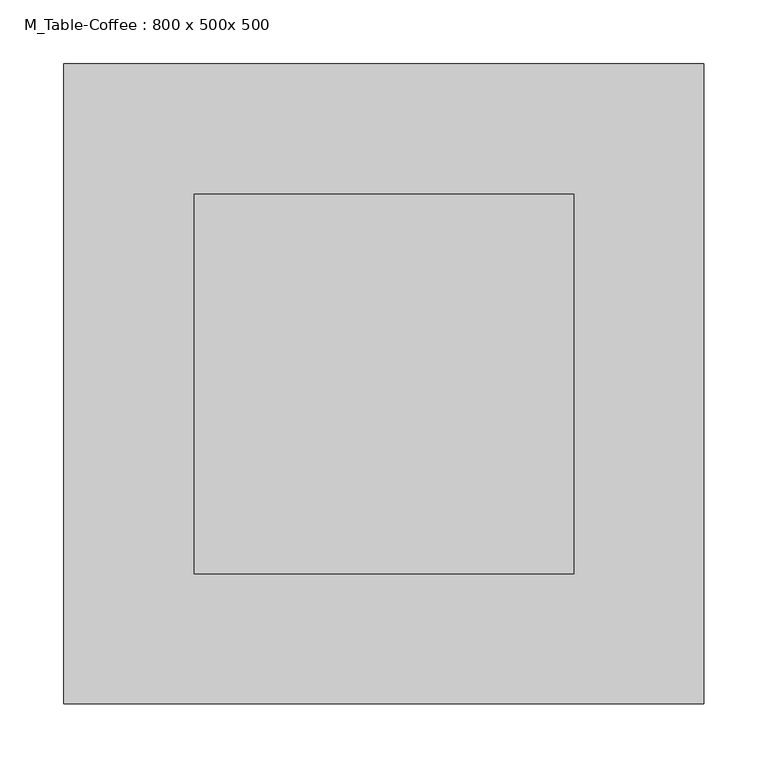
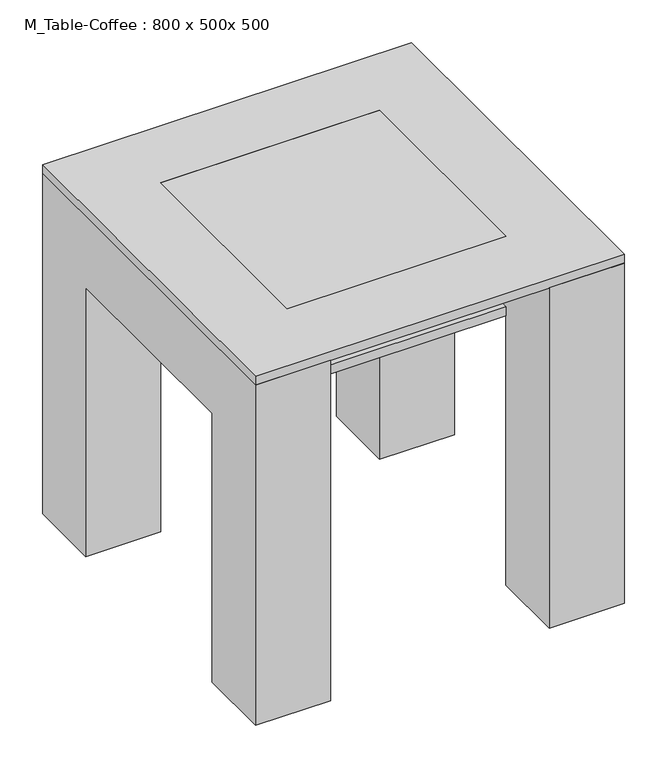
"""IFC4 building model written with IfcOpenShell, lengths in millimetres: furniture geometry, M_Table-Coffee : 800 x 500x 500."""

from ifc_helpers import new_model, si_unit, frame, origin, place, context, project, spatial, polyline, outline, extrude, source, transform, mapped, element, save


def m_table_coffee_800_x_500x_500_ae3acebe(model_context):
    return source(origin(), model_context, "Body", "SweptSolid", [
        extrude(outline(polyline([(166.6657667, 243.6110778), (166.6657667, -53.1889222), (-130.1342333, -53.1889222), (-130.1342333, 243.6110778), (166.6657667, 243.6110778)])), frame((0.0, 0.0, 385.7), z_axis=(0.0, 0.0, 1.0), x_axis=(1.0, 0.0, 0.0)), (0.0, 0.0, 1.0), 12.7),
        extrude(outline(polyline([(345.2110778, 0.0), (243.6110778, 0.0), (243.6110778, 385.7), (-53.1889222, 385.7), (-53.1889222, 0.0), (-154.7889222, 0.0), (-154.7889222, 487.3), (345.2110778, 487.3), (345.2110778, 0.0)])), frame((166.6657667, 0.0, 0.0), z_axis=(1.0, 0.0, 0.0), x_axis=(0.0, 1.0, 0.0)), (0.0, 0.0, 1.0), 101.6),
        extrude(outline(polyline([(345.2110778, 487.3), (345.2110778, 0.0), (243.6110778, 0.0), (243.6110778, 385.7), (-53.1889222, 385.7), (-53.1889222, 0.0), (-154.7889222, 0.0), (-154.7889222, 487.3), (345.2110778, 487.3)])), frame((-231.7342333, 0.0, 0.0), z_axis=(1.0, 0.0, 0.0), x_axis=(0.0, 1.0, 0.0)), (0.0, 0.0, 1.0), 101.6),
        extrude(outline(polyline([(166.6657667, 243.6110778), (166.6657667, -53.1889222), (-130.1342333, -53.1889222), (-130.1342333, 243.6110778), (166.6657667, 243.6110778)])), frame((0.0, 0.0, 487.3), z_axis=(0.0, 0.0, 1.0), x_axis=(1.0, 0.0, 0.0)), (0.0, 0.0, 1.0), 12.7),
        extrude(outline(polyline([(268.2657667, 345.2110778), (268.2657667, -154.7889222), (-231.7342333, -154.7889222), (-231.7342333, 345.2110778), (268.2657667, 345.2110778)]), holes=[polyline([(166.6657667, 243.6110778), (-130.1342333, 243.6110778), (-130.1342333, -53.1889222), (166.6657667, -53.1889222), (166.6657667, 243.6110778)])]), frame((0.0, 0.0, 487.3), z_axis=(0.0, 0.0, 1.0), x_axis=(1.0, 0.0, 0.0)), (0.0, 0.0, 1.0), 12.7),
    ])


if __name__ == "__main__":
    model = new_model("IFC4")
    model_context = context("Model", 3, world=origin())
    ifc_project = project(units=[si_unit("LENGTHUNIT", "METRE", prefix="MILLI")], contexts=[model_context])
    site = spatial("IfcSite", under=ifc_project)
    building = spatial("IfcBuilding", under=site)
    placement = place(None, origin())
    m_table_coffee_800_x_500x_500_shape = m_table_coffee_800_x_500x_500_ae3acebe(model_context)
    element("IfcFurniture", 1, ObjectType="M_Table-Coffee : 800 x 500x 500", at=placement, inside=building, context=model_context, shape_type="MappedRepresentation", body=[
        mapped(m_table_coffee_800_x_500x_500_shape, transform((0.0, 0.0, 0.0), x_axis=(1.0, 0.0, 0.0), y_axis=(0.0, 1.0, 0.0), z_axis=(0.0, 0.0, 1.0))),
    ])
    save(model, "model.ifc")
